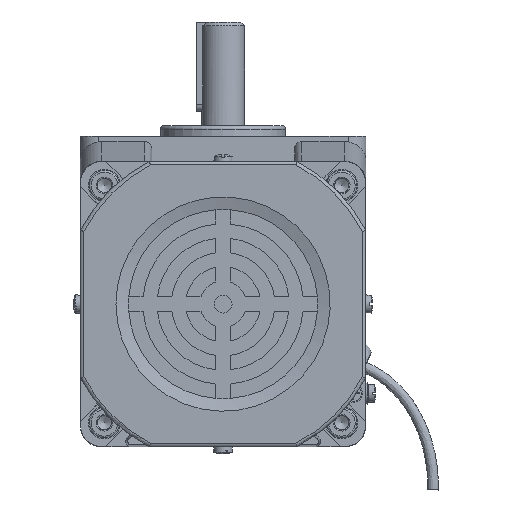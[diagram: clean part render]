
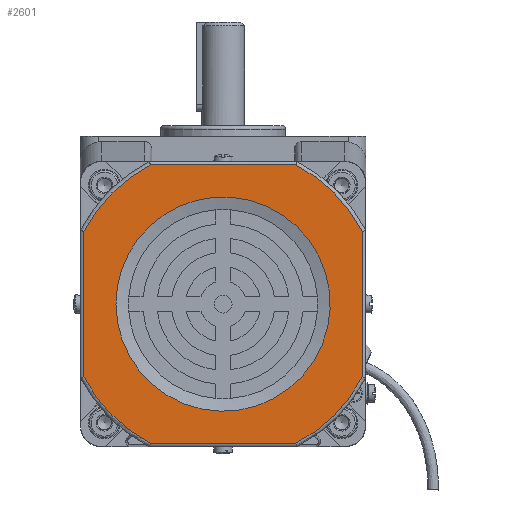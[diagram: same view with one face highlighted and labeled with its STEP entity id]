
A CAD part, left-side view. The second image highlights one B-rep face of the part: STEP entity #2601.
In plain terms, the highlighted planar face has unit normal (-1, 0, 0).
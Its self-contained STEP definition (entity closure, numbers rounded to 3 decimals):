
#2601=ADVANCED_FACE('',(#5783,#5784),#3652,.F.);
#3652=PLANE('',#17256);
#4083=LINE('',#22961,#4933);
#4084=LINE('',#22966,#4934);
#4085=LINE('',#22970,#4935);
#4086=LINE('',#22974,#4936);
#4933=VECTOR('',#18883,1.);
#4934=VECTOR('',#18886,1.);
#4935=VECTOR('',#18889,1.);
#4936=VECTOR('',#18892,1.);
#5783=FACE_BOUND('',#6228,.T.);
#5784=FACE_BOUND('',#6229,.T.);
#6228=EDGE_LOOP('',(#7527));
#6229=EDGE_LOOP('',(#7528,#7529,#7530,#7531,#7532,#7533,#7534,#7535));
#7527=ORIENTED_EDGE('',*,*,#14000,.T.);
#7528=ORIENTED_EDGE('',*,*,#14001,.T.);
#7529=ORIENTED_EDGE('',*,*,#14002,.T.);
#7530=ORIENTED_EDGE('',*,*,#14003,.T.);
#7531=ORIENTED_EDGE('',*,*,#14004,.T.);
#7532=ORIENTED_EDGE('',*,*,#14005,.T.);
#7533=ORIENTED_EDGE('',*,*,#14006,.T.);
#7534=ORIENTED_EDGE('',*,*,#14007,.T.);
#7535=ORIENTED_EDGE('',*,*,#14008,.T.);
#12411=VERTEX_POINT('',#22960);
#12412=VERTEX_POINT('',#22962);
#12413=VERTEX_POINT('',#22963);
#12414=VERTEX_POINT('',#22965);
#12415=VERTEX_POINT('',#22967);
#12416=VERTEX_POINT('',#22969);
#12417=VERTEX_POINT('',#22971);
#12418=VERTEX_POINT('',#22973);
#12419=VERTEX_POINT('',#22975);
#14000=EDGE_CURVE('',#12411,#12411,#16482,.T.);
#14001=EDGE_CURVE('',#12412,#12413,#4083,.T.);
#14002=EDGE_CURVE('',#12413,#12414,#16483,.T.);
#14003=EDGE_CURVE('',#12414,#12415,#4084,.T.);
#14004=EDGE_CURVE('',#12415,#12416,#16484,.T.);
#14005=EDGE_CURVE('',#12416,#12417,#4085,.T.);
#14006=EDGE_CURVE('',#12417,#12418,#16485,.T.);
#14007=EDGE_CURVE('',#12418,#12419,#4086,.T.);
#14008=EDGE_CURVE('',#12419,#12412,#16486,.T.);
#16482=CIRCLE('',#17251,30.);
#16483=CIRCLE('',#17252,44.);
#16484=CIRCLE('',#17253,44.);
#16485=CIRCLE('',#17254,44.);
#16486=CIRCLE('',#17255,44.);
#17251=AXIS2_PLACEMENT_3D('',#22959,#18881,#18882);
#17252=AXIS2_PLACEMENT_3D('',#22964,#18884,#18885);
#17253=AXIS2_PLACEMENT_3D('',#22968,#18887,#18888);
#17254=AXIS2_PLACEMENT_3D('',#22972,#18890,#18891);
#17255=AXIS2_PLACEMENT_3D('',#22976,#18893,#18894);
#17256=AXIS2_PLACEMENT_3D('',#22977,#18895,#18896);
#18881=DIRECTION('',(1.,0.,0.));
#18882=DIRECTION('',(0.,1.,0.));
#18883=DIRECTION('',(0.,1.,0.));
#18884=DIRECTION('',(-1.,0.,0.));
#18885=DIRECTION('',(0.,0.,-1.));
#18886=DIRECTION('',(0.,0.,-1.));
#18887=DIRECTION('',(-1.,0.,0.));
#18888=DIRECTION('',(0.,0.,-1.));
#18889=DIRECTION('',(0.,-1.,0.));
#18890=DIRECTION('',(-1.,0.,0.));
#18891=DIRECTION('',(0.,0.,-1.));
#18892=DIRECTION('',(0.,0.,1.));
#18893=DIRECTION('',(-1.,0.,0.));
#18894=DIRECTION('',(0.,0.,-1.));
#18895=DIRECTION('',(1.,0.,0.));
#18896=DIRECTION('',(0.,0.,-1.));
#22959=CARTESIAN_POINT('',(-102.,40.,40.));
#22960=CARTESIAN_POINT('',(-102.,70.,40.));
#22961=CARTESIAN_POINT('',(-102.,60.616,79.));
#22962=CARTESIAN_POINT('',(-102.,19.628,79.));
#22963=CARTESIAN_POINT('',(-102.,60.372,79.));
#22964=CARTESIAN_POINT('',(-102.,40.,40.));
#22965=CARTESIAN_POINT('',(-102.,79.,60.372));
#22966=CARTESIAN_POINT('',(-102.,79.,19.384));
#22967=CARTESIAN_POINT('',(-102.,79.,19.628));
#22968=CARTESIAN_POINT('',(-102.,40.,40.));
#22969=CARTESIAN_POINT('',(-102.,60.372,1.));
#22970=CARTESIAN_POINT('',(-102.,19.384,1.));
#22971=CARTESIAN_POINT('',(-102.,19.628,1.));
#22972=CARTESIAN_POINT('',(-102.,40.,40.));
#22973=CARTESIAN_POINT('',(-102.,1.,19.628));
#22974=CARTESIAN_POINT('',(-102.,1.,60.616));
#22975=CARTESIAN_POINT('',(-102.,1.,60.372));
#22976=CARTESIAN_POINT('',(-102.,40.,40.));
#22977=CARTESIAN_POINT('',(-102.,40.,40.));
